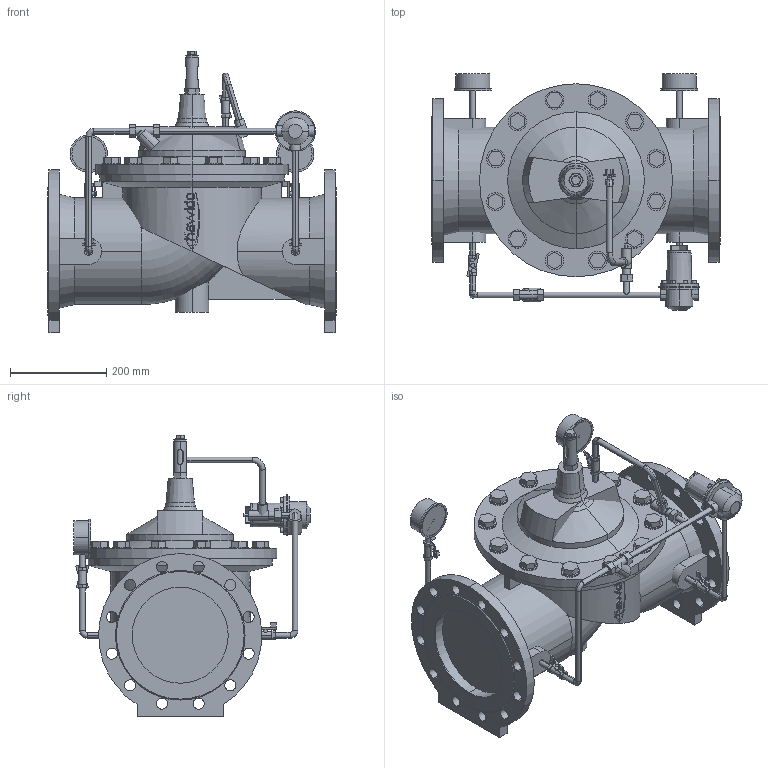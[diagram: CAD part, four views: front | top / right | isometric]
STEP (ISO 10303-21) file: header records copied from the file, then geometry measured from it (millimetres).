
FILE_DESCRIPTION(('STEP AP214'),'1');
FILE_NAME('S:/EK/USER/CAT6/3DHomepage_27-04-2012/CH-Produkte/1500/1500_PN16_DN200.STP','2013-01-18T08:42:47',(' '),(' '),'Spatial InterOp 3D',' ',' ');
FILE_SCHEMA(('automotive_design'));
Length unit declared in the file: millimetre
Products named in the file (179): 3D-Objekt
Bounding box: 600 x 492 x 586.8 mm (x, y, z)
Volume: 38736348.5 mm3; surface area: 2174507.7 mm2
Topology: 179 solids, 179 shells, 1291 faces, 2785 edges, 1854 vertices
Faces by surface type: plane 880, cylinder 361, cone 30, torus 16, bspline 4
Entity records: 50448 total; most frequent: CARTESIAN_POINT 6950, DIRECTION 6521, ORIENTED_EDGE 5570, EDGE_CURVE 2785, AXIS2_PLACEMENT_3D 2293, LINE 1935, VECTOR 1935, VERTEX_POINT 1854
